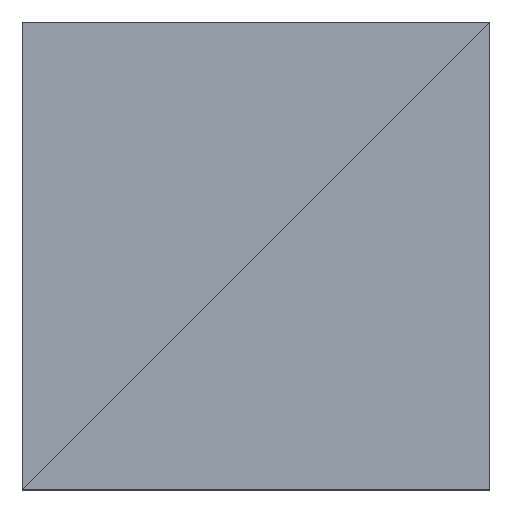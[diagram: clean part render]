
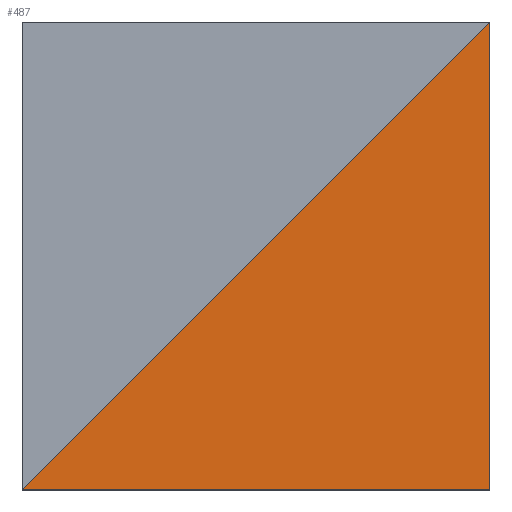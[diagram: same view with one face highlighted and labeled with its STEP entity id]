
A CAD part, top view. The second image highlights one B-rep face of the part: STEP entity #487.
In plain terms, the highlighted planar face has unit normal (0, 0, 1).
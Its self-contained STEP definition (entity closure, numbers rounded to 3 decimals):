
#114 = VERTEX_POINT('',#115);
#115 = CARTESIAN_POINT('',(28.,-22.,11.2));
#129 = PLANE('',#130);
#130 = AXIS2_PLACEMENT_3D('',#131,#132,#133);
#131 = CARTESIAN_POINT('',(29.414,-22.,9.786));
#132 = DIRECTION('',(-0.,-1.,-0.));
#133 = DIRECTION('',(0.,0.,-1.));
#155 = PLANE('',#156);
#156 = AXIS2_PLACEMENT_3D('',#157,#158,#159);
#157 = CARTESIAN_POINT('',(29.414,-19.414,11.2));
#158 = DIRECTION('',(0.,0.,1.));
#159 = DIRECTION('',(1.,0.,0.));
#229 = EDGE_CURVE('',#230,#232,#234,.T.);
#230 = VERTEX_POINT('',#231);
#231 = CARTESIAN_POINT('',(32.,-18.,11.2));
#232 = VERTEX_POINT('',#233);
#233 = CARTESIAN_POINT('',(32.,-22.,11.2));
#234 = SURFACE_CURVE('',#235,(#239,#251),.PCURVE_S1.);
#235 = LINE('',#236,#237);
#236 = CARTESIAN_POINT('',(32.,-18.,11.2));
#237 = VECTOR('',#238,1.);
#238 = DIRECTION('',(0.,-1.,0.));
#239 = PCURVE('',#240,#245);
#240 = PLANE('',#241);
#241 = AXIS2_PLACEMENT_3D('',#242,#243,#244);
#242 = CARTESIAN_POINT('',(32.,-19.414,9.786));
#243 = DIRECTION('',(1.,0.,0.));
#244 = DIRECTION('',(0.,0.,1.));
#245 = DEFINITIONAL_REPRESENTATION('',(#246),#250);
#246 = LINE('',#247,#248);
#247 = CARTESIAN_POINT('',(1.414,-1.414));
#248 = VECTOR('',#249,1.);
#249 = DIRECTION('',(0.,1.));
#250 = ( GEOMETRIC_REPRESENTATION_CONTEXT(2) 
PARAMETRIC_REPRESENTATION_CONTEXT() REPRESENTATION_CONTEXT('2D SPACE',''
  ) );
#251 = PCURVE('',#252,#257);
#252 = PLANE('',#253);
#253 = AXIS2_PLACEMENT_3D('',#254,#255,#256);
#254 = CARTESIAN_POINT('',(30.586,-20.586,11.2));
#255 = DIRECTION('',(0.,0.,1.));
#256 = DIRECTION('',(1.,0.,0.));
#257 = DEFINITIONAL_REPRESENTATION('',(#258),#262);
#258 = LINE('',#259,#260);
#259 = CARTESIAN_POINT('',(1.414,2.586));
#260 = VECTOR('',#261,1.);
#261 = DIRECTION('',(0.,-1.));
#262 = ( GEOMETRIC_REPRESENTATION_CONTEXT(2) 
PARAMETRIC_REPRESENTATION_CONTEXT() REPRESENTATION_CONTEXT('2D SPACE',''
  ) );
#415 = EDGE_CURVE('',#232,#114,#416,.T.);
#416 = SURFACE_CURVE('',#417,(#421,#428),.PCURVE_S1.);
#417 = LINE('',#418,#419);
#418 = CARTESIAN_POINT('',(32.,-22.,11.2));
#419 = VECTOR('',#420,1.);
#420 = DIRECTION('',(-1.,0.,0.));
#421 = PCURVE('',#129,#422);
#422 = DEFINITIONAL_REPRESENTATION('',(#423),#427);
#423 = LINE('',#424,#425);
#424 = CARTESIAN_POINT('',(-1.414,2.586));
#425 = VECTOR('',#426,1.);
#426 = DIRECTION('',(0.,-1.));
#427 = ( GEOMETRIC_REPRESENTATION_CONTEXT(2) 
PARAMETRIC_REPRESENTATION_CONTEXT() REPRESENTATION_CONTEXT('2D SPACE',''
  ) );
#428 = PCURVE('',#252,#429);
#429 = DEFINITIONAL_REPRESENTATION('',(#430),#434);
#430 = LINE('',#431,#432);
#431 = CARTESIAN_POINT('',(1.414,-1.414));
#432 = VECTOR('',#433,1.);
#433 = DIRECTION('',(-1.,0.));
#434 = ( GEOMETRIC_REPRESENTATION_CONTEXT(2) 
PARAMETRIC_REPRESENTATION_CONTEXT() REPRESENTATION_CONTEXT('2D SPACE',''
  ) );
#466 = EDGE_CURVE('',#114,#230,#467,.T.);
#467 = SURFACE_CURVE('',#468,(#472,#479),.PCURVE_S1.);
#468 = LINE('',#469,#470);
#469 = CARTESIAN_POINT('',(28.,-22.,11.2));
#470 = VECTOR('',#471,1.);
#471 = DIRECTION('',(0.707,0.707,0.));
#472 = PCURVE('',#155,#473);
#473 = DEFINITIONAL_REPRESENTATION('',(#474),#478);
#474 = LINE('',#475,#476);
#475 = CARTESIAN_POINT('',(-1.414,-2.586));
#476 = VECTOR('',#477,1.);
#477 = DIRECTION('',(0.707,0.707));
#478 = ( GEOMETRIC_REPRESENTATION_CONTEXT(2) 
PARAMETRIC_REPRESENTATION_CONTEXT() REPRESENTATION_CONTEXT('2D SPACE',''
  ) );
#479 = PCURVE('',#252,#480);
#480 = DEFINITIONAL_REPRESENTATION('',(#481),#485);
#481 = LINE('',#482,#483);
#482 = CARTESIAN_POINT('',(-2.586,-1.414));
#483 = VECTOR('',#484,1.);
#484 = DIRECTION('',(0.707,0.707));
#485 = ( GEOMETRIC_REPRESENTATION_CONTEXT(2) 
PARAMETRIC_REPRESENTATION_CONTEXT() REPRESENTATION_CONTEXT('2D SPACE',''
  ) );
#487 = ADVANCED_FACE('',(#488),#252,.T.);
#488 = FACE_BOUND('',#489,.T.);
#489 = EDGE_LOOP('',(#490,#491,#492));
#490 = ORIENTED_EDGE('',*,*,#415,.F.);
#491 = ORIENTED_EDGE('',*,*,#229,.F.);
#492 = ORIENTED_EDGE('',*,*,#466,.F.);
